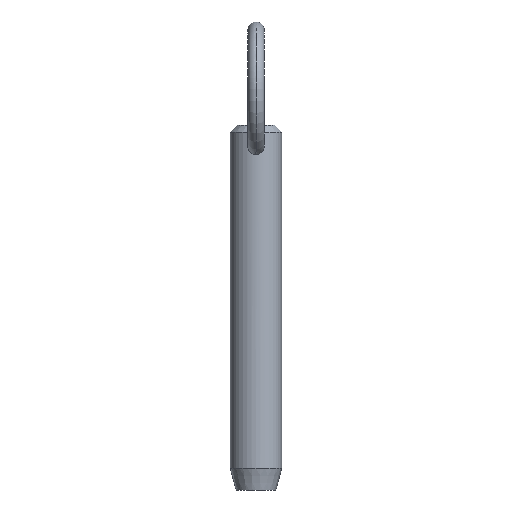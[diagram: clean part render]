
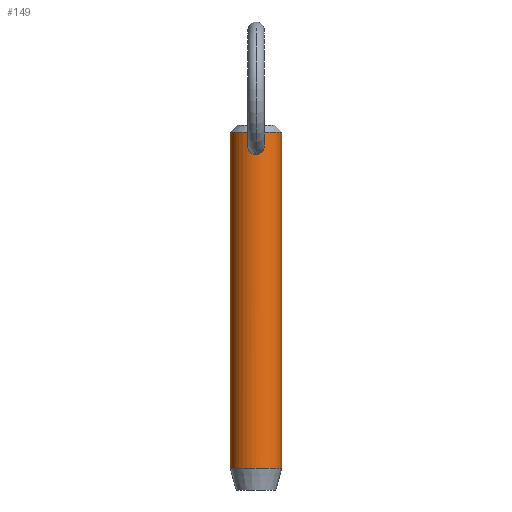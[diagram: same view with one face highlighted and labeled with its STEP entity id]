
A CAD part, front view. The second image highlights one B-rep face of the part: STEP entity #149.
In plain terms, the highlighted cylindrical face has radius 4.76 mm (diameter 9.52 mm), a partial arc.
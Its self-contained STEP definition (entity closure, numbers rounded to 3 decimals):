
#10 = CARTESIAN_POINT ( 'NONE',  ( 0.409, -4.743, 52.478 ) ) ;
#11 = B_SPLINE_CURVE_WITH_KNOTS ( 'NONE', 3,
 ( #391, #74, #355, #113, #118, #150, #273, #434, #352, #353, #112, #354, #322, #473, #145, #30, #188, #147, #269, #429, #73, #31 ),
 .UNSPECIFIED., .F., .F.,
 ( 4, 2, 2, 2, 2, 2, 2, 2, 2, 2, 4 ),
 ( 0.009, 0.01, 0.01, 0.011, 0.011, 0.012, 0.012, 0.013, 0.014, 0.014, 0.014 ),
 .UNSPECIFIED. ) ;
#14 = DIRECTION ( 'NONE',  ( 0., 0., 1. ) ) ;
#29 = LINE ( 'NONE', #83, #502 ) ;
#30 = CARTESIAN_POINT ( 'NONE',  ( -0.932, -4.67, 52.145 ) ) ;
#31 = CARTESIAN_POINT ( 'NONE',  ( 0., -4.76, 52.548 ) ) ;
#34 = CARTESIAN_POINT ( 'NONE',  ( 4.76, 0., 53.35 ) ) ;
#36 = DIRECTION ( 'NONE',  ( 0., 0., -1. ) ) ;
#39 = AXIS2_PLACEMENT_3D ( 'NONE', #241, #362, #197 ) ;
#40 = CARTESIAN_POINT ( 'NONE',  ( 0., -4.76, 49.226 ) ) ;
#43 = ORIENTED_EDGE ( 'NONE', *, *, #222, .T. ) ;
#44 = CARTESIAN_POINT ( 'NONE',  ( 0.104, -4.76, 52.548 ) ) ;
#51 = CARTESIAN_POINT ( 'NONE',  ( 0.925, -4.67, 52.139 ) ) ;
#52 = DIRECTION ( 'NONE',  ( -1., 0., 0. ) ) ;
#53 = CARTESIAN_POINT ( 'NONE',  ( 1.45, -4.534, 50.328 ) ) ;
#55 = CARTESIAN_POINT ( 'NONE',  ( 0.797, -4.697, 49.429 ) ) ;
#67 = EDGE_CURVE ( 'NONE', #103, #343, #219, .T. ) ;
#73 = CARTESIAN_POINT ( 'NONE',  ( -0.103, -4.76, 52.548 ) ) ;
#74 = CARTESIAN_POINT ( 'NONE',  ( -0.21, -4.76, 49.226 ) ) ;
#83 = CARTESIAN_POINT ( 'NONE',  ( -4.76, 0., 48.3 ) ) ;
#86 = ORIENTED_EDGE ( 'NONE', *, *, #67, .T. ) ;
#95 = CARTESIAN_POINT ( 'NONE',  ( 0.209, -4.756, 52.534 ) ) ;
#96 = CARTESIAN_POINT ( 'NONE',  ( 0.77, -4.698, 52.275 ) ) ;
#100 = CARTESIAN_POINT ( 'NONE',  ( 1.293, -4.582, 51.642 ) ) ;
#103 = VERTEX_POINT ( 'NONE', #34 ) ;
#110 = ORIENTED_EDGE ( 'NONE', *, *, #308, .T. ) ;
#112 = CARTESIAN_POINT ( 'NONE',  ( -1.508, -4.515, 50.637 ) ) ;
#113 = CARTESIAN_POINT ( 'NONE',  ( -0.703, -4.709, 49.389 ) ) ;
#115 = LINE ( 'NONE', #358, #336 ) ;
#117 = DIRECTION ( 'NONE',  ( 0., 0., -1. ) ) ;
#118 = CARTESIAN_POINT ( 'NONE',  ( -0.793, -4.694, 49.439 ) ) ;
#134 = CARTESIAN_POINT ( 'NONE',  ( 1.478, -4.525, 51.052 ) ) ;
#138 = CARTESIAN_POINT ( 'NONE',  ( 0.997, -4.655, 52.064 ) ) ;
#139 = CARTESIAN_POINT ( 'NONE',  ( 0., -4.76, 49.226 ) ) ;
#142 = VERTEX_POINT ( 'NONE', #435 ) ;
#144 = AXIS2_PLACEMENT_3D ( 'NONE', #338, #14, #52 ) ;
#145 = CARTESIAN_POINT ( 'NONE',  ( -1.19, -4.611, 51.824 ) ) ;
#147 = CARTESIAN_POINT ( 'NONE',  ( -0.504, -4.734, 52.438 ) ) ;
#149 = ADVANCED_FACE ( 'NONE', ( #359, #329 ), #439, .T. ) ;
#150 = CARTESIAN_POINT ( 'NONE',  ( -0.961, -4.663, 49.557 ) ) ;
#153 = EDGE_CURVE ( 'NONE', #103, #142, #115, .T. ) ;
#161 = DIRECTION ( 'NONE',  ( 0., 0., -1. ) ) ;
#166 = VERTEX_POINT ( 'NONE', #40 ) ;
#174 = EDGE_LOOP ( 'NONE', ( #511, #337 ) ) ;
#188 = CARTESIAN_POINT ( 'NONE',  ( -0.777, -4.7, 52.285 ) ) ;
#193 = CIRCLE ( 'NONE', #144, 4.76 ) ;
#197 = DIRECTION ( 'NONE',  ( -1., 0., 0. ) ) ;
#209 = CARTESIAN_POINT ( 'NONE',  ( 1.385, -4.554, 50.132 ) ) ;
#215 = CARTESIAN_POINT ( 'NONE',  ( 0.97, -4.662, 49.55 ) ) ;
#219 = CIRCLE ( 'NONE', #414, 4.76 ) ;
#222 = EDGE_CURVE ( 'NONE', #343, #320, #29, .T. ) ;
#241 = CARTESIAN_POINT ( 'NONE',  ( 0., 0., 48.3 ) ) ;
#253 = CARTESIAN_POINT ( 'NONE',  ( 1.24, -4.596, 49.86 ) ) ;
#255 = CARTESIAN_POINT ( 'NONE',  ( 0.105, -4.76, 49.226 ) ) ;
#258 = EDGE_LOOP ( 'NONE', ( #390, #86, #43, #110 ) ) ;
#266 = EDGE_CURVE ( 'NONE', #314, #166, #392, .T. ) ;
#269 = CARTESIAN_POINT ( 'NONE',  ( -0.409, -4.743, 52.478 ) ) ;
#273 = CARTESIAN_POINT ( 'NONE',  ( -1.039, -4.646, 49.626 ) ) ;
#277 = DIRECTION ( 'NONE',  ( 1., 0., 0. ) ) ;
#292 = CARTESIAN_POINT ( 'NONE',  ( 0., -4.76, 52.548 ) ) ;
#300 = CARTESIAN_POINT ( 'NONE',  ( 1.19, -4.611, 51.824 ) ) ;
#308 = EDGE_CURVE ( 'NONE', #320, #142, #193, .T. ) ;
#314 = VERTEX_POINT ( 'NONE', #413 ) ;
#320 = VERTEX_POINT ( 'NONE', #497 ) ;
#322 = CARTESIAN_POINT ( 'NONE',  ( -1.441, -4.537, 51.257 ) ) ;
#329 = FACE_BOUND ( 'NONE', #174, .T. ) ;
#335 = CARTESIAN_POINT ( 'NONE',  ( 0.512, -4.733, 49.308 ) ) ;
#336 = VECTOR ( 'NONE', #36, 1000. ) ;
#337 = ORIENTED_EDGE ( 'NONE', *, *, #496, .T. ) ;
#338 = CARTESIAN_POINT ( 'NONE',  ( 0., 0., -8.7 ) ) ;
#340 = CARTESIAN_POINT ( 'NONE',  ( 1.178, -4.613, 49.776 ) ) ;
#342 = CARTESIAN_POINT ( 'NONE',  ( 1.503, -4.517, 50.74 ) ) ;
#343 = VERTEX_POINT ( 'NONE', #450 ) ;
#352 = CARTESIAN_POINT ( 'NONE',  ( -1.353, -4.564, 50.035 ) ) ;
#353 = CARTESIAN_POINT ( 'NONE',  ( -1.483, -4.524, 50.426 ) ) ;
#354 = CARTESIAN_POINT ( 'NONE',  ( -1.487, -4.522, 51.053 ) ) ;
#355 = CARTESIAN_POINT ( 'NONE',  ( -0.416, -4.746, 49.267 ) ) ;
#356 = CARTESIAN_POINT ( 'NONE',  ( 0., 0., 53.35 ) ) ;
#358 = CARTESIAN_POINT ( 'NONE',  ( 4.76, 0., 48.3 ) ) ;
#359 = FACE_OUTER_BOUND ( 'NONE', #258, .T. ) ;
#362 = DIRECTION ( 'NONE',  ( 0., 0., -1. ) ) ;
#369 = CARTESIAN_POINT ( 'NONE',  ( 1.404, -4.548, 51.353 ) ) ;
#372 = CARTESIAN_POINT ( 'NONE',  ( 1.434, -4.539, 51.254 ) ) ;
#373 = CARTESIAN_POINT ( 'NONE',  ( 1.492, -4.52, 50.948 ) ) ;
#377 = CARTESIAN_POINT ( 'NONE',  ( 0.411, -4.743, 49.277 ) ) ;
#390 = ORIENTED_EDGE ( 'NONE', *, *, #153, .F. ) ;
#391 = CARTESIAN_POINT ( 'NONE',  ( 0., -4.76, 49.226 ) ) ;
#392 = B_SPLINE_CURVE_WITH_KNOTS ( 'NONE', 3,
 ( #292, #44, #95, #10, #492, #491, #96, #51, #138, #300, #100, #369, #372, #134, #373, #342, #495, #410, #53, #209, #412, #253, #340, #215, #55, #335, #377, #490, #255, #139 ),
 .UNSPECIFIED., .F., .F.,
 ( 4, 2, 2, 2, 2, 2, 2, 2, 2, 2, 2, 2, 2, 2, 4 ),
 ( 0.004, 0.005, 0.005, 0.005, 0.006, 0.006, 0.007, 0.007, 0.007, 0.007, 0.008, 0.008, 0.009, 0.009, 0.009 ),
 .UNSPECIFIED. ) ;
#410 = CARTESIAN_POINT ( 'NONE',  ( 1.473, -4.526, 50.431 ) ) ;
#412 = CARTESIAN_POINT ( 'NONE',  ( 1.344, -4.567, 50.039 ) ) ;
#413 = CARTESIAN_POINT ( 'NONE',  ( 0., -4.76, 52.548 ) ) ;
#414 = AXIS2_PLACEMENT_3D ( 'NONE', #356, #117, #277 ) ;
#429 = CARTESIAN_POINT ( 'NONE',  ( -0.208, -4.757, 52.534 ) ) ;
#434 = CARTESIAN_POINT ( 'NONE',  ( -1.247, -4.596, 49.852 ) ) ;
#435 = CARTESIAN_POINT ( 'NONE',  ( 4.76, 0., -8.7 ) ) ;
#439 = CYLINDRICAL_SURFACE ( 'NONE', #39, 4.76 ) ;
#450 = CARTESIAN_POINT ( 'NONE',  ( -4.76, 0., 53.35 ) ) ;
#473 = CARTESIAN_POINT ( 'NONE',  ( -1.292, -4.582, 51.645 ) ) ;
#490 = CARTESIAN_POINT ( 'NONE',  ( 0.208, -4.757, 49.236 ) ) ;
#491 = CARTESIAN_POINT ( 'NONE',  ( 0.687, -4.711, 52.335 ) ) ;
#492 = CARTESIAN_POINT ( 'NONE',  ( 0.506, -4.734, 52.437 ) ) ;
#495 = CARTESIAN_POINT ( 'NONE',  ( 1.499, -4.518, 50.637 ) ) ;
#496 = EDGE_CURVE ( 'NONE', #166, #314, #11, .T. ) ;
#497 = CARTESIAN_POINT ( 'NONE',  ( -4.76, 0., -8.7 ) ) ;
#502 = VECTOR ( 'NONE', #161, 1000. ) ;
#511 = ORIENTED_EDGE ( 'NONE', *, *, #266, .T. ) ;
